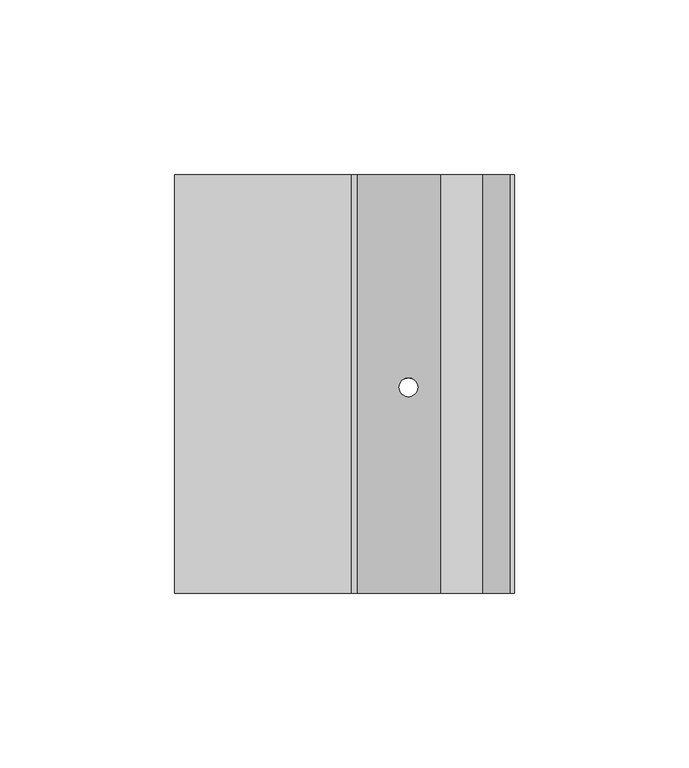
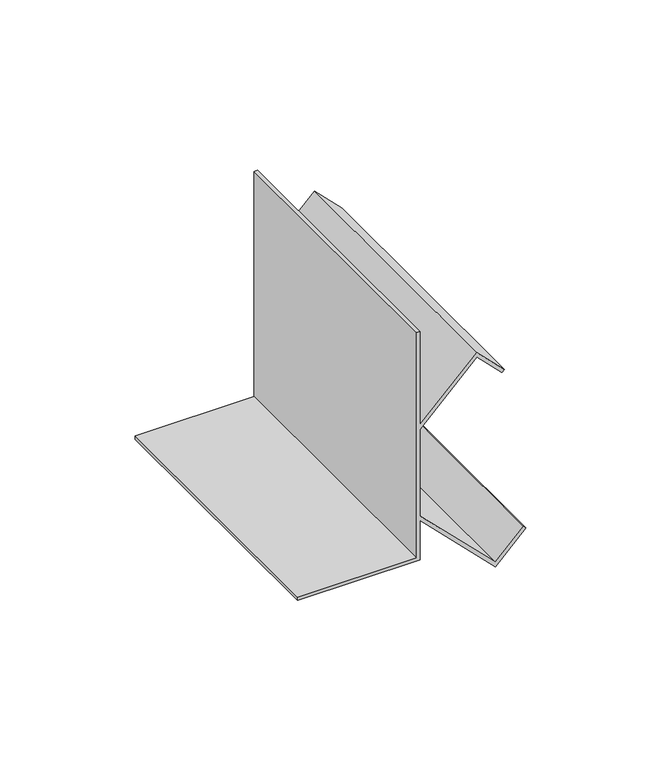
"""IFC4 building model written with IfcOpenShell, lengths in millimetres: proxy geometry, Mechanical Fittings & Accessories4 : Mechanical Fittings & Accessories."""

from ifc_helpers import new_model, si_unit, frame, origin, place, context, project, spatial, polyline, ellipse_curve, source, transform, mapped, element, save
from ifc_brep_helpers import plane_surface, revolved_surface, advanced_brep


def generic_models_22061ccc(model_context):
    return source(origin(), model_context, "Body", "AdvancedBrep", [
        advanced_brep(
        [(-10977.7433312, 5808.4963986, 4114.8), (-11028.5433312, 5808.4963986, 4114.8), (-11028.5433312, 5808.4963986, 4113.3117188), (-10976.25505, 5808.4963986, 4113.3117188), (-10976.25505, 5808.4963986, 4131.1383509), (-10944.145289, 5808.4963986, 4099.0285899), (-10931.1663177, 5808.4963986, 4112.0075612), (-10932.2186914, 5808.4963986, 4113.059935), (-10944.145289, 5808.4963986, 4101.1333374), (-10976.25505, 5808.4963986, 4133.2430984), (-10976.25505, 5808.4963986, 4172.2761118), (-10952.082789, 5808.4963986, 4196.4483729), (-10941.3468164, 5808.4963986, 4185.7124003), (-10940.2944427, 5808.4963986, 4186.7647741), (-10952.082789, 5808.4963986, 4198.5531204), (-10976.25505, 5808.4963986, 4174.3808594), (-10976.25505, 5808.4963986, 4216.4), (-10977.7433312, 5808.4963986, 4216.4), (-10977.7433312, 5928.4645457, 4114.8), (-10977.7433312, 5928.4645457, 4216.4), (-10976.25505, 5928.4645457, 4216.4), (-10976.25505, 5928.4645457, 4174.3808594), (-10952.082789, 5928.4645457, 4198.5531204), (-10940.2944427, 5928.4645457, 4186.7647741), (-10941.3468164, 5928.4645457, 4185.7124003), (-10952.082789, 5928.4645457, 4196.4483729), (-10976.25505, 5928.4645457, 4172.2761118), (-10976.25505, 5928.4645457, 4133.2430984), (-10944.145289, 5928.4645457, 4101.1333374), (-10932.2186914, 5928.4645457, 4113.059935), (-10931.1663177, 5928.4645457, 4112.0075612), (-10944.145289, 5928.4645457, 4099.0285899), (-10976.25505, 5928.4645457, 4131.1383509), (-10976.25505, 5928.4645457, 4113.3117188), (-11028.5433312, 5928.4645457, 4113.3117188), (-11028.5433312, 5928.4645457, 4114.8), (-10964.1411396, 5867.5191481, 4119.0244406), (-10958.8017728, 5867.5191481, 4113.6850737), (-10958.8017728, 5867.5191481, 4115.7898213), (-10964.1411396, 5867.5191481, 4121.1291881), (-10964.1411396, 5867.5191481, 4184.3900222), (-10958.8017728, 5867.5191481, 4189.729389), (-10958.8017728, 5867.5191481, 4191.8341365), (-10964.1411396, 5867.5191481, 4186.4947697)],
        [
            (0, 1),
            (1, 2),
            (2, 3),
            (3, 4),
            (4, 5),
            (5, 6),
            (6, 7),
            (7, 8),
            (8, 9),
            (9, 10),
            (10, 11),
            (11, 12),
            (12, 13),
            (13, 14),
            (14, 15),
            (15, 16),
            (16, 17),
            (17, 0),
            (18, 19),
            (19, 20),
            (20, 21),
            (21, 22),
            (22, 23),
            (23, 24),
            (24, 25),
            (25, 26),
            (26, 27),
            (27, 28),
            (28, 29),
            (29, 30),
            (30, 31),
            (31, 32),
            (32, 33),
            (33, 34),
            (34, 35),
            (35, 18),
            (0, 18),
            (35, 1),
            (34, 2),
            (33, 3),
            (32, 4),
            (31, 5),
            (36, 37, ellipse_curve(frame((-10961.4714562, 5867.5191481, 4116.3547571), z_axis=(0.7071067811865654, 0.0, 0.7071067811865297), x_axis=(-0.7071067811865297, 0.0, 0.7071067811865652)), 3.7755025, 2.6696834)),
            (37, 36, ellipse_curve(frame((-10961.4714562, 5867.5191481, 4116.3547571), z_axis=(0.7071067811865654, 0.0, 0.7071067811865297), x_axis=(-0.7071067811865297, 0.0, 0.7071067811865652)), 3.7755025, 2.6696834)),
            (30, 6),
            (29, 7),
            (28, 8),
            (27, 9),
            (38, 39, ellipse_curve(frame((-10961.4714562, 5867.5191481, 4118.4595047), z_axis=(-0.7071067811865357, 0.0, -0.7071067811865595), x_axis=(-0.7071067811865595, 0.0, 0.7071067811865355)), 3.7755025, 2.6696834)),
            (39, 38, ellipse_curve(frame((-10961.4714562, 5867.5191481, 4118.4595047), z_axis=(-0.7071067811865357, 0.0, -0.7071067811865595), x_axis=(-0.7071067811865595, 0.0, 0.7071067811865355)), 3.7755025, 2.6696834)),
            (26, 10),
            (25, 11),
            (40, 41, ellipse_curve(frame((-10961.4714562, 5867.5191481, 4187.0597056), z_axis=(-0.7071067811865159, 0.0, 0.7071067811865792), x_axis=(0.7071067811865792, 0.0, 0.7071067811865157)), 3.7755025, 2.6696834)),
            (41, 40, ellipse_curve(frame((-10961.4714562, 5867.5191481, 4187.0597056), z_axis=(-0.7071067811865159, 0.0, 0.7071067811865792), x_axis=(0.7071067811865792, 0.0, 0.7071067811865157)), 3.7755025, 2.6696834)),
            (24, 12),
            (23, 13),
            (22, 14),
            (21, 15),
            (42, 43, ellipse_curve(frame((-10961.4714562, 5867.5191481, 4189.1644531), z_axis=(0.7071067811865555, 0.0, -0.7071067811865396), x_axis=(0.7071067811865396, 0.0, 0.7071067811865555)), 3.7755025, 2.6696834)),
            (43, 42, ellipse_curve(frame((-10961.4714562, 5867.5191481, 4189.1644531), z_axis=(0.7071067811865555, 0.0, -0.7071067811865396), x_axis=(0.7071067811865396, 0.0, 0.7071067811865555)), 3.7755025, 2.6696834)),
            (20, 16),
            (19, 17),
            (36, 39),
            (38, 37),
            (40, 43),
            (42, 41),
        ],
        [
            plane_surface(frame((-11028.5433312, 5808.4963986, 4114.8), z_axis=(0.0, -1.0, 0.0), x_axis=(-1.0, 0.0, 0.0))),
            plane_surface(frame((-11028.5433312, 5928.4645457, 4114.8), z_axis=(0.0, 1.0, 0.0), x_axis=(1.0, 0.0, 0.0))),
            plane_surface(frame((-10977.7433312, 5808.4963986, 4114.8), z_axis=(0.0, 0.0, 1.0), x_axis=(0.0, 1.0, 0.0))),
            plane_surface(frame((-11028.5433312, 5808.4963986, 4114.8), z_axis=(-1.0, 0.0, 0.0), x_axis=(0.0, 1.0, 0.0))),
            plane_surface(frame((-11028.5433312, 5808.4963986, 4113.3117188), z_axis=(0.0, 0.0, -1.0), x_axis=(0.0, 1.0, 0.0))),
            plane_surface(frame((-10976.25505, 5808.4963986, 4113.3117188), z_axis=(1.0, 0.0, 0.0), x_axis=(0.0, 1.0, 0.0))),
            plane_surface(frame((-10976.25505, 5808.4963986, 4131.1383509), z_axis=(-0.7071067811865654, 0.0, -0.7071067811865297), x_axis=(0.0, 1.0, 0.0))),
            plane_surface(frame((-10944.145289, 5808.4963986, 4099.0285899), z_axis=(0.7071067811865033, 0.0, -0.7071067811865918), x_axis=(0.0, 1.0, 0.0))),
            plane_surface(frame((-10931.1663177, 5808.4963986, 4112.0075612), z_axis=(0.7071067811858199, 0.0, 0.7071067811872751), x_axis=(0.0, 1.0, 0.0))),
            plane_surface(frame((-10932.2186914, 5808.4963986, 4113.059935), z_axis=(-0.7071067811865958, 0.0, 0.7071067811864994), x_axis=(0.0, 1.0, 0.0))),
            plane_surface(frame((-10944.145289, 5808.4963986, 4101.1333374), z_axis=(0.7071067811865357, 0.0, 0.7071067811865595), x_axis=(0.0, 1.0, 0.0))),
            plane_surface(frame((-10976.25505, 5808.4963986, 4133.2430984), z_axis=(1.0, 0.0, 0.0), x_axis=(0.0, 1.0, 0.0))),
            plane_surface(frame((-10976.25505, 5808.4963986, 4172.2761118), z_axis=(0.7071067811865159, 0.0, -0.7071067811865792), x_axis=(0.0, 1.0, 0.0))),
            plane_surface(frame((-10952.082789, 5808.4963986, 4196.4483729), z_axis=(-0.7071067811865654, 0.0, -0.7071067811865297), x_axis=(0.0, 1.0, 0.0))),
            plane_surface(frame((-10941.3468164, 5808.4963986, 4185.7124003), z_axis=(0.7071067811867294, 0.0, -0.7071067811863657), x_axis=(0.0, 1.0, 0.0))),
            plane_surface(frame((-10940.2944427, 5808.4963986, 4186.7647741), z_axis=(0.7071067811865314, 0.0, 0.7071067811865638), x_axis=(0.0, 1.0, 0.0))),
            plane_surface(frame((-10952.082789, 5808.4963986, 4198.5531204), z_axis=(-0.7071067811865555, 0.0, 0.7071067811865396), x_axis=(0.0, 1.0, 0.0))),
            plane_surface(frame((-10976.25505, 5808.4963986, 4174.3808594), z_axis=(1.0, 0.0, 0.0), x_axis=(0.0, 1.0, 0.0))),
            plane_surface(frame((-10976.25505, 5808.4963986, 4216.4), z_axis=(0.0, 0.0, 1.0), x_axis=(0.0, 1.0, 0.0))),
            plane_surface(frame((-10977.7433312, 5808.4963986, 4216.4), z_axis=(-1.0, 0.0, 0.0), x_axis=(0.0, 1.0, 0.0))),
            revolved_surface(polyline([(-10958.801772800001, 5867.5191481, 4121.129188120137), (-10958.801772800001, 5867.5191481, 4113.685073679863)]), (-10961.4714562, 5867.5191481, 4097.2034211), (0.0, 0.0, 1.0)),
            revolved_surface(polyline([(-10958.801772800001, 5867.5191481, 4191.834136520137), (-10958.801772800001, 5867.5191481, 4184.390022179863)]), (-10961.4714562, 5867.5191481, 4097.2034211), (0.0, 0.0, 1.0)),
        ],
        [
            (0, [[1, 2, 3, 4, 5, 6, 7, 8, 9, 10, 11, 12, 13, 14, 15, 16, 17, 18]]),
            (1, [[19, 20, 21, 22, 23, 24, 25, 26, 27, 28, 29, 30, 31, 32, 33, 34, 35, 36]]),
            (2, [[-1, 37, -36, 38]]),
            (3, [[-2, -38, -35, 39]]),
            (4, [[-3, -39, -34, 40]]),
            (5, [[-4, -40, -33, 41]]),
            (6, [[-5, -41, -32, 42], [43, 44]]),
            (7, [[-6, -42, -31, 45]]),
            (8, [[-7, -45, -30, 46]]),
            (9, [[-8, -46, -29, 47]]),
            (10, [[-9, -47, -28, 48], [49, 50]]),
            (11, [[-10, -48, -27, 51]]),
            (12, [[-11, -51, -26, 52], [53, 54]]),
            (13, [[-12, -52, -25, 55]]),
            (14, [[-13, -55, -24, 56]]),
            (15, [[-14, -56, -23, 57]]),
            (16, [[-15, -57, -22, 58], [59, 60]]),
            (17, [[-16, -58, -21, 61]]),
            (18, [[-17, -61, -20, 62]]),
            (19, [[-18, -62, -19, -37]]),
            (20, [[63, -49, 64, -43]]),
            (21, [[65, -59, 66, -53]]),
            (20, [[-63, -44, -64, -50]]),
            (21, [[-65, -54, -66, -60]]),
        ],
    ),
    ])


if __name__ == "__main__":
    model = new_model("IFC4")
    model_context = context("Model", 3, world=origin())
    ifc_project = project(units=[si_unit("LENGTHUNIT", "METRE", prefix="MILLI")], contexts=[model_context])
    site = spatial("IfcSite", under=ifc_project)
    building = spatial("IfcBuilding", under=site)
    placement = place(None, origin())
    generic_models_shape = generic_models_22061ccc(model_context)
    element("IfcBuildingElementProxy", 1, Name="Mechanical Fittings & Accessories4 : Mechanical Fittings & Accessories", ObjectType="Mechanical Fittings & Accessories4 : Mechanical Fittings & Accessories", at=placement, inside=building, context=model_context, shape_type="MappedRepresentation", body=[
        mapped(generic_models_shape, transform((0.0, 0.0, 0.0), x_axis=(1.0, 0.0, 0.0), y_axis=(0.0, 1.0, 0.0), z_axis=(0.0, 0.0, 1.0))),
    ])
    save(model, "model.ifc")
